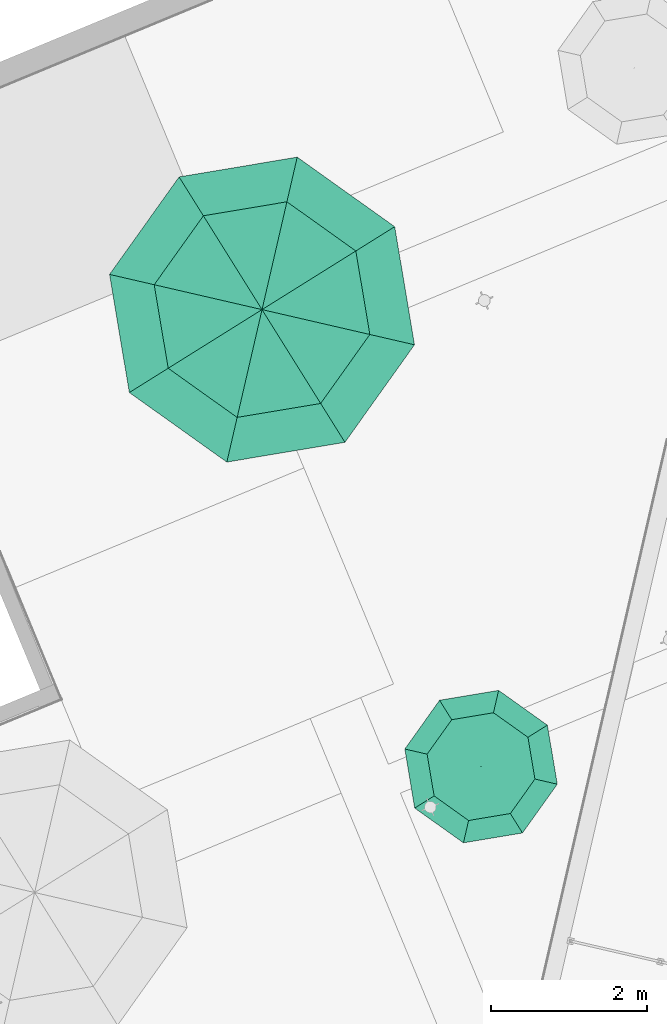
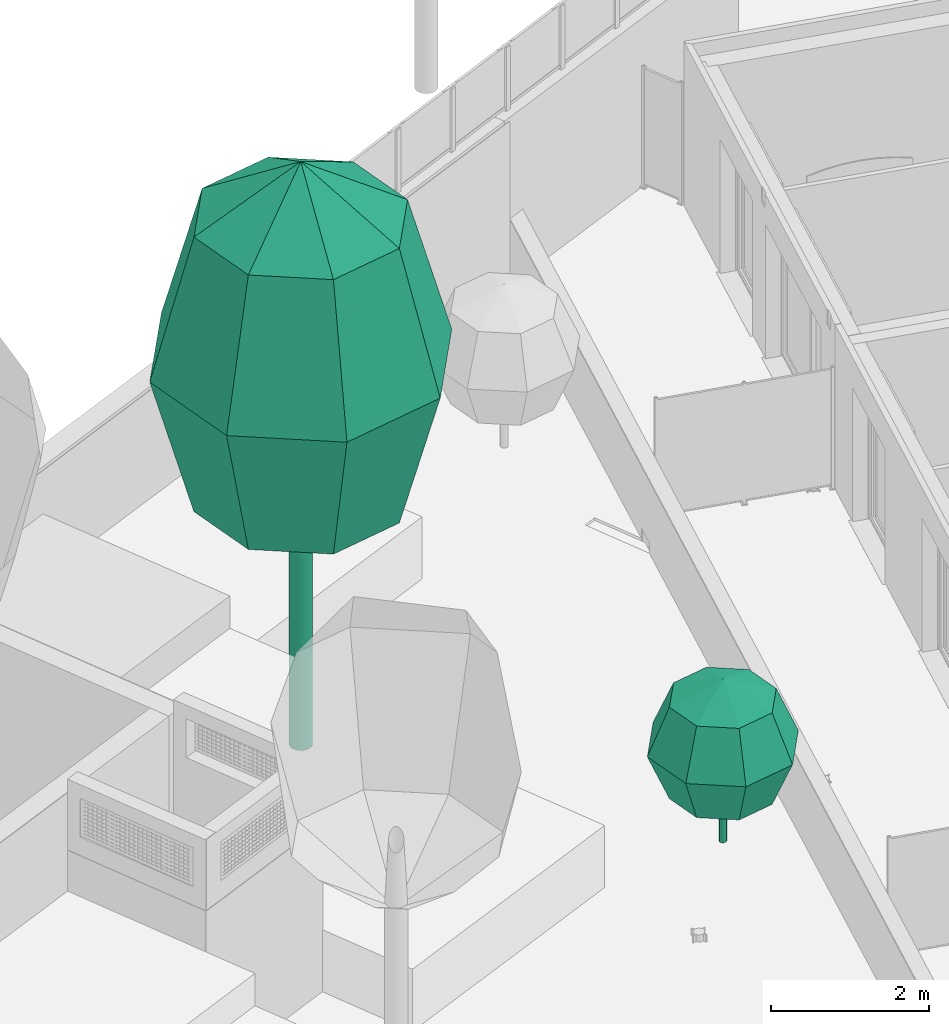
# One storey, part 96 of 119: 2 flow terminals.
"""IFC2X3 building model written with IfcOpenShell, lengths in metres."""

from ifc_helpers import new_model, entity, si_unit, converted_unit, derived_unit, money_unit, direction, frame, origin_with_axes, place, context, subcontext, project, spatial, faceted_brep, source, transform, mapped, type_object, element, save


model = new_model("IFC2X3")

# Units and contexts
model_context = context("Model", 3, precision=1e-05, world=origin_with_axes(), true_north=direction((0.0, 1.0)))
body_context = subcontext(model_context, "Body", "Model", "MODEL_VIEW")
ifc_project = project(units=[si_unit("LENGTHUNIT", "METRE"), si_unit("AREAUNIT", "SQUARE_METRE"), si_unit("VOLUMEUNIT", "CUBIC_METRE"), converted_unit("PLANEANGLEUNIT", "DEGREE", entity("IfcPlaneAngleMeasure", 0.0174532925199), si_unit("PLANEANGLEUNIT", "RADIAN"), dimensions=[0, 0, 0, 0, 0, 0, 0]), si_unit("SOLIDANGLEUNIT", "STERADIAN"), money_unit("EUR"), converted_unit("TIMEUNIT", "Year", entity("IfcTimeMeasure", 31556926.0), si_unit("TIMEUNIT", "SECOND"), dimensions=[0, 0, 1, 0, 0, 0, 0]), si_unit("MASSUNIT", "GRAM", prefix="KILO"), si_unit("THERMODYNAMICTEMPERATUREUNIT", "DEGREE_CELSIUS"), si_unit("LUMINOUSINTENSITYUNIT", "LUMEN"), si_unit("ENERGYUNIT", "JOULE", prefix="MEGA"), derived_unit("THERMALCONDUCTANCEUNIT", [(si_unit("POWERUNIT", "WATT"), 1), (si_unit("LENGTHUNIT", "METRE"), -1), (si_unit("THERMODYNAMICTEMPERATUREUNIT", "KELVIN"), -1)]), derived_unit("SPECIFICHEATCAPACITYUNIT", [(si_unit("ENERGYUNIT", "JOULE"), 1), (si_unit("MASSUNIT", "GRAM", prefix="KILO"), -1), (si_unit("THERMODYNAMICTEMPERATUREUNIT", "KELVIN"), -1)]), derived_unit("MASSDENSITYUNIT", [(si_unit("MASSUNIT", "GRAM", prefix="KILO"), 1), (si_unit("VOLUMEUNIT", "CUBIC_METRE"), -1)])], contexts=[model_context])

# Site, building, storey
site_placement = place(None, origin_with_axes())
site = spatial("IfcSite", under=ifc_project, at=site_placement, Name="Site", CompositionType="ELEMENT")
building_placement = place(site_placement, origin_with_axes())
building = spatial("IfcBuilding", under=site, at=building_placement, Name="Bâtiment", CompositionType="ELEMENT")
storey_placement = place(building_placement, origin_with_axes())
storey = spatial("IfcBuildingStorey", under=building, at=storey_placement, Name="Rez-de-chaussée", CompositionType="ELEMENT", Elevation=0.0)

# Flow terminals
air_terminal_type = type_object("IfcAirTerminalType", Name="Modèle arbre conceptuel 23", PredefinedType="NOTDEFINED")
shared_shape_1 = source(origin_with_axes(), body_context, "Body", "Brep", [
    faceted_brep([(-0.0492403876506, -0.00868240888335, 0.0), (-0.05, 0.0, 0.0), (-0.0492403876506, 0.00868240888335, 0.0), (-0.0469846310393, 0.0171010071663, 0.0), (-0.0433012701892, 0.025, 0.0), (-0.0383022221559, 0.0321393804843, 0.0), (-0.0321393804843, 0.0383022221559, 0.0), (-0.025, 0.0433012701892, 0.0), (-0.0171010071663, 0.0469846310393, 0.0), (-0.00868240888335, 0.0492403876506, 0.0), (0.0, 0.05, 0.0), (0.00868240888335, 0.0492403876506, 0.0), (0.0171010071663, 0.0469846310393, 0.0), (0.025, 0.0433012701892, 0.0), (0.0321393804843, 0.0383022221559, 0.0), (0.0383022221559, 0.0321393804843, 0.0), (0.0433012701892, 0.025, 0.0), (0.0469846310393, 0.0171010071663, 0.0), (0.0492403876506, 0.00868240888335, 0.0), (0.05, 0.0, 0.0), (0.0492403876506, -0.00868240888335, 0.0), (0.0469846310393, -0.0171010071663, 0.0), (0.0433012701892, -0.025, 0.0), (0.0383022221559, -0.0321393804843, 0.0), (0.0321393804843, -0.0383022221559, 0.0), (0.025, -0.0433012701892, 0.0), (0.0171010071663, -0.0469846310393, 0.0), (0.00868240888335, -0.0492403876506, 0.0), (0.0, -0.05, 0.0), (-0.00868240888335, -0.0492403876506, 0.0), (-0.0171010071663, -0.0469846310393, 0.0), (-0.025, -0.0433012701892, 0.0), (-0.0321393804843, -0.0383022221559, 0.0), (-0.0383022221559, -0.0321393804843, 0.0), (-0.0433012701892, -0.025, 0.0), (-0.0469846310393, -0.0171010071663, 0.0), (-0.0492403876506, -0.00868240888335, 0.5), (-0.05, 0.0, 0.5), (-0.0492403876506, 0.00868240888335, 0.5), (-0.0469846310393, 0.0171010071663, 0.5), (-0.0433012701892, 0.025, 0.5), (-0.0383022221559, 0.0321393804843, 0.5), (-0.0321393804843, 0.0383022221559, 0.5), (-0.025, 0.0433012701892, 0.5), (-0.0171010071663, 0.0469846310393, 0.5), (-0.00868240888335, 0.0492403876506, 0.5), (0.0, 0.05, 0.5), (0.00868240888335, 0.0492403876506, 0.5), (0.0171010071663, 0.0469846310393, 0.5), (0.025, 0.0433012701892, 0.5), (0.0321393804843, 0.0383022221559, 0.5), (0.0383022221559, 0.0321393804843, 0.5), (0.0433012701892, 0.025, 0.5), (0.0469846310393, 0.0171010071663, 0.5), (0.0492403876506, 0.00868240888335, 0.5), (0.05, 0.0, 0.5), (0.0492403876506, -0.00868240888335, 0.5), (0.0469846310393, -0.0171010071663, 0.5), (0.0433012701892, -0.025, 0.5), (0.0383022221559, -0.0321393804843, 0.5), (0.0321393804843, -0.0383022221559, 0.5), (0.025, -0.0433012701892, 0.5), (0.0171010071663, -0.0469846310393, 0.5), (0.00868240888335, -0.0492403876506, 0.5), (0.0, -0.05, 0.5), (-0.00868240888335, -0.0492403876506, 0.5), (-0.0171010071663, -0.0469846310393, 0.5), (-0.025, -0.0433012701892, 0.5), (-0.0321393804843, -0.0383022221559, 0.5), (-0.0383022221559, -0.0321393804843, 0.5), (-0.0433012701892, -0.025, 0.5), (-0.0469846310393, -0.0171010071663, 0.5)], [[[0, 1, 2, 3, 4, 5, 6, 7, 8, 9, 10, 11, 12, 13, 14, 15, 16, 17, 18, 19, 20, 21, 22, 23, 24, 25, 26, 27, 28, 29, 30, 31, 32, 33, 34, 35]], [[0, 36, 37, 1]], [[1, 37, 38, 2]], [[2, 38, 39, 3]], [[3, 39, 40, 4]], [[4, 40, 41, 5]], [[5, 41, 42, 6]], [[6, 42, 43, 7]], [[7, 43, 44, 8]], [[8, 44, 45, 9]], [[9, 45, 46, 10]], [[10, 46, 47, 11]], [[11, 47, 48, 12]], [[12, 48, 49, 13]], [[13, 49, 50, 14]], [[14, 50, 51, 15]], [[15, 51, 52, 16]], [[16, 52, 53, 17]], [[17, 53, 54, 18]], [[18, 54, 55, 19]], [[19, 55, 56, 20]], [[20, 56, 57, 21]], [[21, 57, 58, 22]], [[22, 58, 59, 23]], [[23, 59, 60, 24]], [[24, 60, 61, 25]], [[25, 61, 62, 26]], [[26, 62, 63, 27]], [[27, 63, 64, 28]], [[28, 64, 65, 29]], [[29, 65, 66, 30]], [[30, 66, 67, 31]], [[31, 67, 68, 32]], [[32, 68, 69, 33]], [[33, 69, 70, 34]], [[34, 70, 71, 35]], [[35, 71, 36, 0]], [[36, 71, 70, 69, 68, 67, 66, 65, 64, 63, 62, 61, 60, 59, 58, 57, 56, 55, 54, 53, 52, 51, 50, 49, 48, 47, 46, 45, 44, 43, 42, 41, 40, 39, 38, 37]]]),
    faceted_brep([(-0.0492403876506, -0.00868240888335, 0.5), (-0.05, 0.0, 0.5), (-0.0492403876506, 0.00868240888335, 0.5), (-0.0469846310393, 0.0171010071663, 0.5), (-0.0433012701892, 0.025, 0.5), (-0.0383022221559, 0.0321393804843, 0.5), (-0.0321393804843, 0.0383022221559, 0.5), (-0.025, 0.0433012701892, 0.5), (-0.0171010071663, 0.0469846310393, 0.5), (-0.00868240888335, 0.0492403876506, 0.5), (0.0, 0.05, 0.5), (0.00868240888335, 0.0492403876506, 0.5), (0.0171010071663, 0.0469846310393, 0.5), (0.025, 0.0433012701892, 0.5), (0.0321393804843, 0.0383022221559, 0.5), (0.0383022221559, 0.0321393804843, 0.5), (0.0433012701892, 0.025, 0.5), (0.0469846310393, 0.0171010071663, 0.5), (0.0492403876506, 0.00868240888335, 0.5), (0.05, 0.0, 0.5), (0.0492403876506, -0.00868240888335, 0.5), (0.0469846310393, -0.0171010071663, 0.5), (0.0433012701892, -0.025, 0.5), (0.0383022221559, -0.0321393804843, 0.5), (0.0321393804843, -0.0383022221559, 0.5), (0.025, -0.0433012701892, 0.5), (0.0171010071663, -0.0469846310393, 0.5), (0.00868240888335, -0.0492403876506, 0.5), (0.0, -0.05, 0.5), (-0.00868240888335, -0.0492403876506, 0.5), (-0.0171010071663, -0.0469846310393, 0.5), (-0.025, -0.0433012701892, 0.5), (-0.0321393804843, -0.0383022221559, 0.5), (-0.0383022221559, -0.0321393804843, 0.5), (-0.0433012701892, -0.025, 0.5), (-0.0469846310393, -0.0171010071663, 0.5), (0.0, 0.0, 1.5)], [[[0, 1, 2, 3, 4, 5, 6, 7, 8, 9, 10, 11, 12, 13, 14, 15, 16, 17, 18, 19, 20, 21, 22, 23, 24, 25, 26, 27, 28, 29, 30, 31, 32, 33, 34, 35]], [[0, 36, 1]], [[1, 36, 2]], [[2, 36, 3]], [[3, 36, 4]], [[4, 36, 5]], [[5, 36, 6]], [[6, 36, 7]], [[7, 36, 8]], [[8, 36, 9]], [[9, 36, 10]], [[10, 36, 11]], [[11, 36, 12]], [[12, 36, 13]], [[13, 36, 14]], [[14, 36, 15]], [[15, 36, 16]], [[16, 36, 17]], [[17, 36, 18]], [[18, 36, 19]], [[19, 36, 20]], [[20, 36, 21]], [[21, 36, 22]], [[22, 36, 23]], [[23, 36, 24]], [[24, 36, 25]], [[25, 36, 26]], [[26, 36, 27]], [[27, 36, 28]], [[28, 36, 29]], [[29, 36, 30]], [[30, 36, 31]], [[31, 36, 32]], [[32, 36, 33]], [[33, 36, 34]], [[34, 36, 35]], [[35, 36, 0]]]),
    faceted_brep([(-0.707106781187, 0.0, 2.20710678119), (-0.5, -0.5, 2.20710678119), (0.0, 0.0, 2.5), (-1.0, 0.0, 1.5), (-0.707106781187, -0.707106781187, 1.5), (0.0, -0.707106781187, 2.20710678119), (-0.5, 0.5, 2.20710678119), (-0.707106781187, 0.0, 0.792893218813), (-0.5, -0.5, 0.792893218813), (0.0, -1.0, 1.5), (-0.707106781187, 0.707106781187, 1.5), (0.5, -0.5, 2.20710678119), (0.0, 0.707106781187, 2.20710678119), (0.0, 0.0, 0.5), (0.0, -0.707106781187, 0.792893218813), (-0.5, 0.5, 0.792893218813), (0.707106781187, -0.707106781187, 1.5), (0.0, 1.0, 1.5), (0.707106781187, 0.0, 2.20710678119), (0.5, 0.5, 2.20710678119), (0.5, -0.5, 0.792893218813), (0.0, 0.707106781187, 0.792893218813), (1.0, 0.0, 1.5), (0.707106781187, 0.707106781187, 1.5), (0.707106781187, 0.0, 0.792893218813), (0.5, 0.5, 0.792893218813)], [[[0, 1, 2]], [[3, 4, 1, 0]], [[1, 5, 2]], [[6, 0, 2]], [[7, 8, 4, 3]], [[4, 9, 5, 1]], [[10, 3, 0, 6]], [[5, 11, 2]], [[12, 6, 2]], [[13, 8, 7]], [[8, 14, 9, 4]], [[15, 7, 3, 10]], [[9, 16, 11, 5]], [[17, 10, 6, 12]], [[11, 18, 2]], [[19, 12, 2]], [[13, 14, 8]], [[13, 7, 15]], [[14, 20, 16, 9]], [[21, 15, 10, 17]], [[16, 22, 18, 11]], [[23, 17, 12, 19]], [[18, 19, 2]], [[13, 20, 14]], [[13, 15, 21]], [[20, 24, 22, 16]], [[25, 21, 17, 23]], [[22, 23, 19, 18]], [[13, 24, 20]], [[13, 21, 25]], [[24, 25, 23, 22]], [[13, 25, 24]]]),
])
flow_terminal_1_placement = place(storey_placement, frame((-22.6609222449, -3.11455046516, 1.06489449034), z_axis=(0.0, 0.0, 1.0), x_axis=(-0.224876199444, -0.974387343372, 0.0)))
element("IfcFlowTerminal", 1, at=flow_terminal_1_placement, inside=storey, type_object=air_terminal_type, ObjectType="AIR TERMINAL", context=body_context, shape_type="MappedRepresentation", body=[
    mapped(shared_shape_1, transform((0.0, 0.0, 0.0))),
])
shared_shape_2 = source(origin_with_axes(), body_context, "Body", "Brep", [
    faceted_brep([(-0.147721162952, -0.02604722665, 0.0), (-0.15, 0.0, 0.0), (-0.147721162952, 0.02604722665, 0.0), (-0.140953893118, 0.0513030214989, 0.0), (-0.129903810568, 0.075, 0.0), (-0.114906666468, 0.096418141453, 0.0), (-0.096418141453, 0.114906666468, 0.0), (-0.075, 0.129903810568, 0.0), (-0.0513030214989, 0.140953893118, 0.0), (-0.02604722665, 0.147721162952, 0.0), (0.0, 0.15, 0.0), (0.02604722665, 0.147721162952, 0.0), (0.0513030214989, 0.140953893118, 0.0), (0.075, 0.129903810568, 0.0), (0.096418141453, 0.114906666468, 0.0), (0.114906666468, 0.096418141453, 0.0), (0.129903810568, 0.075, 0.0), (0.140953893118, 0.0513030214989, 0.0), (0.147721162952, 0.02604722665, 0.0), (0.15, 0.0, 0.0), (0.147721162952, -0.02604722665, 0.0), (0.140953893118, -0.0513030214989, 0.0), (0.129903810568, -0.075, 0.0), (0.114906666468, -0.096418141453, 0.0), (0.096418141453, -0.114906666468, 0.0), (0.075, -0.129903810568, 0.0), (0.0513030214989, -0.140953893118, 0.0), (0.02604722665, -0.147721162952, 0.0), (0.0, -0.15, 0.0), (-0.02604722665, -0.147721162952, 0.0), (-0.0513030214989, -0.140953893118, 0.0), (-0.075, -0.129903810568, 0.0), (-0.096418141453, -0.114906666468, 0.0), (-0.114906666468, -0.096418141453, 0.0), (-0.129903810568, -0.075, 0.0), (-0.140953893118, -0.0513030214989, 0.0), (-0.147721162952, -0.02604722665, 3.0), (-0.15, 0.0, 3.0), (-0.147721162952, 0.02604722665, 3.0), (-0.140953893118, 0.0513030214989, 3.0), (-0.129903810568, 0.075, 3.0), (-0.114906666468, 0.096418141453, 3.0), (-0.096418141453, 0.114906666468, 3.0), (-0.075, 0.129903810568, 3.0), (-0.0513030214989, 0.140953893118, 3.0), (-0.02604722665, 0.147721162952, 3.0), (0.0, 0.15, 3.0), (0.02604722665, 0.147721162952, 3.0), (0.0513030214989, 0.140953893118, 3.0), (0.075, 0.129903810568, 3.0), (0.096418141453, 0.114906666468, 3.0), (0.114906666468, 0.096418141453, 3.0), (0.129903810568, 0.075, 3.0), (0.140953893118, 0.0513030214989, 3.0), (0.147721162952, 0.02604722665, 3.0), (0.15, 0.0, 3.0), (0.147721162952, -0.02604722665, 3.0), (0.140953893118, -0.0513030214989, 3.0), (0.129903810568, -0.075, 3.0), (0.114906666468, -0.096418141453, 3.0), (0.096418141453, -0.114906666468, 3.0), (0.075, -0.129903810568, 3.0), (0.0513030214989, -0.140953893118, 3.0), (0.02604722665, -0.147721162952, 3.0), (0.0, -0.15, 3.0), (-0.02604722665, -0.147721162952, 3.0), (-0.0513030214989, -0.140953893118, 3.0), (-0.075, -0.129903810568, 3.0), (-0.096418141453, -0.114906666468, 3.0), (-0.114906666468, -0.096418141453, 3.0), (-0.129903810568, -0.075, 3.0), (-0.140953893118, -0.0513030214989, 3.0)], [[[0, 1, 2, 3, 4, 5, 6, 7, 8, 9, 10, 11, 12, 13, 14, 15, 16, 17, 18, 19, 20, 21, 22, 23, 24, 25, 26, 27, 28, 29, 30, 31, 32, 33, 34, 35]], [[0, 36, 37, 1]], [[1, 37, 38, 2]], [[2, 38, 39, 3]], [[3, 39, 40, 4]], [[4, 40, 41, 5]], [[5, 41, 42, 6]], [[6, 42, 43, 7]], [[7, 43, 44, 8]], [[8, 44, 45, 9]], [[9, 45, 46, 10]], [[10, 46, 47, 11]], [[11, 47, 48, 12]], [[12, 48, 49, 13]], [[13, 49, 50, 14]], [[14, 50, 51, 15]], [[15, 51, 52, 16]], [[16, 52, 53, 17]], [[17, 53, 54, 18]], [[18, 54, 55, 19]], [[19, 55, 56, 20]], [[20, 56, 57, 21]], [[21, 57, 58, 22]], [[22, 58, 59, 23]], [[23, 59, 60, 24]], [[24, 60, 61, 25]], [[25, 61, 62, 26]], [[26, 62, 63, 27]], [[27, 63, 64, 28]], [[28, 64, 65, 29]], [[29, 65, 66, 30]], [[30, 66, 67, 31]], [[31, 67, 68, 32]], [[32, 68, 69, 33]], [[33, 69, 70, 34]], [[34, 70, 71, 35]], [[35, 71, 36, 0]], [[36, 71, 70, 69, 68, 67, 66, 65, 64, 63, 62, 61, 60, 59, 58, 57, 56, 55, 54, 53, 52, 51, 50, 49, 48, 47, 46, 45, 44, 43, 42, 41, 40, 39, 38, 37]]]),
    faceted_brep([(-0.147721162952, -0.02604722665, 3.0), (-0.15, 0.0, 3.0), (-0.147721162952, 0.02604722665, 3.0), (-0.140953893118, 0.0513030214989, 3.0), (-0.129903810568, 0.075, 3.0), (-0.114906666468, 0.096418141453, 3.0), (-0.096418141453, 0.114906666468, 3.0), (-0.075, 0.129903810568, 3.0), (-0.0513030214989, 0.140953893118, 3.0), (-0.02604722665, 0.147721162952, 3.0), (0.0, 0.15, 3.0), (0.02604722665, 0.147721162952, 3.0), (0.0513030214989, 0.140953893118, 3.0), (0.075, 0.129903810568, 3.0), (0.096418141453, 0.114906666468, 3.0), (0.114906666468, 0.096418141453, 3.0), (0.129903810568, 0.075, 3.0), (0.140953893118, 0.0513030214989, 3.0), (0.147721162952, 0.02604722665, 3.0), (0.15, 0.0, 3.0), (0.147721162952, -0.02604722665, 3.0), (0.140953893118, -0.0513030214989, 3.0), (0.129903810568, -0.075, 3.0), (0.114906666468, -0.096418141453, 3.0), (0.096418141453, -0.114906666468, 3.0), (0.075, -0.129903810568, 3.0), (0.0513030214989, -0.140953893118, 3.0), (0.02604722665, -0.147721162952, 3.0), (0.0, -0.15, 3.0), (-0.02604722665, -0.147721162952, 3.0), (-0.0513030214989, -0.140953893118, 3.0), (-0.075, -0.129903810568, 3.0), (-0.096418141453, -0.114906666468, 3.0), (-0.114906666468, -0.096418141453, 3.0), (-0.129903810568, -0.075, 3.0), (-0.140953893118, -0.0513030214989, 3.0), (0.0, 0.0, 6.0)], [[[0, 1, 2, 3, 4, 5, 6, 7, 8, 9, 10, 11, 12, 13, 14, 15, 16, 17, 18, 19, 20, 21, 22, 23, 24, 25, 26, 27, 28, 29, 30, 31, 32, 33, 34, 35]], [[0, 36, 1]], [[1, 36, 2]], [[2, 36, 3]], [[3, 36, 4]], [[4, 36, 5]], [[5, 36, 6]], [[6, 36, 7]], [[7, 36, 8]], [[8, 36, 9]], [[9, 36, 10]], [[10, 36, 11]], [[11, 36, 12]], [[12, 36, 13]], [[13, 36, 14]], [[14, 36, 15]], [[15, 36, 16]], [[16, 36, 17]], [[17, 36, 18]], [[18, 36, 19]], [[19, 36, 20]], [[20, 36, 21]], [[21, 36, 22]], [[22, 36, 23]], [[23, 36, 24]], [[24, 36, 25]], [[25, 36, 26]], [[26, 36, 27]], [[27, 36, 28]], [[28, 36, 29]], [[29, 36, 30]], [[30, 36, 31]], [[31, 36, 32]], [[32, 36, 33]], [[33, 36, 34]], [[34, 36, 35]], [[35, 36, 0]]]),
    faceted_brep([(-1.41421356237, 0.0, 8.12132034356), (-1.0, -1.0, 8.12132034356), (0.0, 0.0, 9.0), (-2.0, 0.0, 6.0), (-1.41421356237, -1.41421356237, 6.0), (0.0, -1.41421356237, 8.12132034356), (-1.0, 1.0, 8.12132034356), (-1.41421356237, 0.0, 3.87867965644), (-1.0, -1.0, 3.87867965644), (0.0, -2.0, 6.0), (-1.41421356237, 1.41421356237, 6.0), (1.0, -1.0, 8.12132034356), (0.0, 1.41421356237, 8.12132034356), (0.0, 0.0, 3.0), (0.0, -1.41421356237, 3.87867965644), (-1.0, 1.0, 3.87867965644), (1.41421356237, -1.41421356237, 6.0), (0.0, 2.0, 6.0), (1.41421356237, 0.0, 8.12132034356), (1.0, 1.0, 8.12132034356), (1.0, -1.0, 3.87867965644), (0.0, 1.41421356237, 3.87867965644), (2.0, 0.0, 6.0), (1.41421356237, 1.41421356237, 6.0), (1.41421356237, 0.0, 3.87867965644), (1.0, 1.0, 3.87867965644)], [[[0, 1, 2]], [[3, 4, 1, 0]], [[1, 5, 2]], [[6, 0, 2]], [[7, 8, 4, 3]], [[4, 9, 5, 1]], [[10, 3, 0, 6]], [[5, 11, 2]], [[12, 6, 2]], [[13, 8, 7]], [[8, 14, 9, 4]], [[15, 7, 3, 10]], [[9, 16, 11, 5]], [[17, 10, 6, 12]], [[11, 18, 2]], [[19, 12, 2]], [[13, 14, 8]], [[13, 7, 15]], [[14, 20, 16, 9]], [[21, 15, 10, 17]], [[16, 22, 18, 11]], [[23, 17, 12, 19]], [[18, 19, 2]], [[13, 20, 14]], [[13, 15, 21]], [[20, 24, 22, 16]], [[25, 21, 17, 23]], [[22, 23, 19, 18]], [[13, 24, 20]], [[13, 21, 25]], [[24, 25, 23, 22]], [[13, 25, 24]]]),
])
flow_terminal_2_placement = place(storey_placement, frame((-25.4602410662, 2.72653227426, 0.0), z_axis=(0.0, 0.0, 1.0), x_axis=(-0.224876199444, -0.974387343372, 0.0)))
element("IfcFlowTerminal", 2, at=flow_terminal_2_placement, inside=storey, type_object=air_terminal_type, Name="Prunus ceradifera", ObjectType="AIR TERMINAL", context=body_context, shape_type="MappedRepresentation", body=[
    mapped(shared_shape_2, transform((0.0, 0.0, 0.0))),
])

save(model, "model.ifc")
